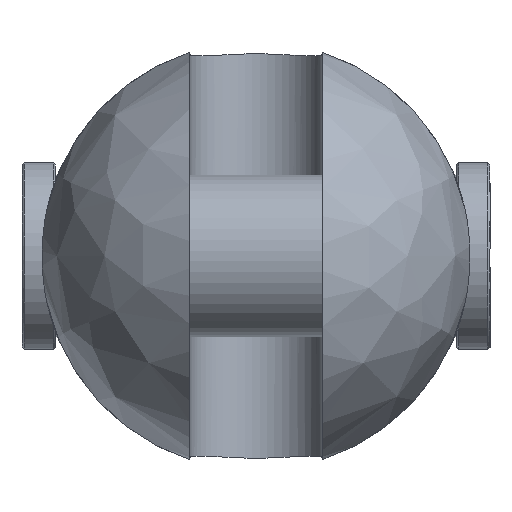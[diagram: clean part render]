
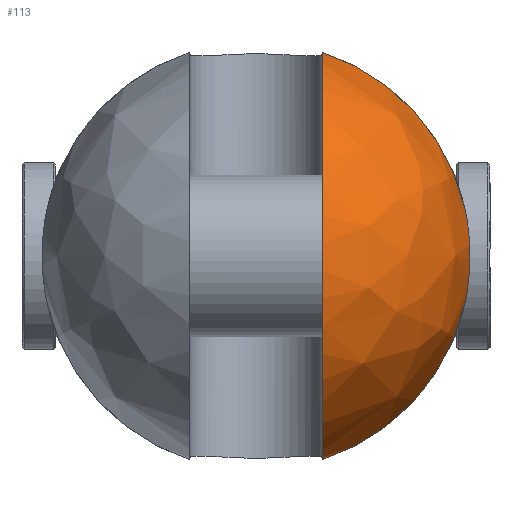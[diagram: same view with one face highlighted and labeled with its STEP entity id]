
A CAD part, left-side view. The second image highlights one B-rep face of the part: STEP entity #113.
In plain terms, the highlighted free-form (B-spline) face has degree [2, 2] with [9, 5] control points.
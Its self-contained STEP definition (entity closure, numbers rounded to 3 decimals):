
#113=ADVANCED_FACE('',(#200),#1527,.T.);
#200=FACE_OUTER_BOUND('',#299,.T.);
#299=EDGE_LOOP('',(#741,#742,#743,#744));
#741=ORIENTED_EDGE('',*,*,#998,.T.);
#742=ORIENTED_EDGE('',*,*,#995,.F.);
#743=ORIENTED_EDGE('',*,*,#1021,.T.);
#744=ORIENTED_EDGE('',*,*,#987,.F.);
#987=EDGE_CURVE('',#1418,#1419,#1249,.T.);
#995=EDGE_CURVE('',#1426,#1427,#1250,.T.);
#998=EDGE_CURVE('',#1418,#1427,#1252,.T.);
#1021=EDGE_CURVE('',#1426,#1419,#1124,.T.);
#1124=B_SPLINE_CURVE_WITH_KNOTS('',3,(#3643,#3644,#3645,#3646,#3647,#3648,
#3649,#3650,#3651,#3652,#3653,#3654,#3655,#3656),.UNSPECIFIED.,.F.,.F.,
(4,2,2,2,2,2,4),(-24.23,-23.407,-17.761,
-12.115,-6.469,-0.823,0.),.UNSPECIFIED.);
#1249=(
BOUNDED_CURVE()
B_SPLINE_CURVE(2,(#3466,#3467,#3468),.UNSPECIFIED.,.F.,.F.)
B_SPLINE_CURVE_WITH_KNOTS((3,3),(0.,53.04),.UNSPECIFIED.)
CURVE()
GEOMETRIC_REPRESENTATION_ITEM()
RATIONAL_B_SPLINE_CURVE((1.,0.87,1.))
REPRESENTATION_ITEM('')
);
#1250=(
BOUNDED_CURVE()
B_SPLINE_CURVE(2,(#3523,#3524,#3525),.UNSPECIFIED.,.F.,.F.)
B_SPLINE_CURVE_WITH_KNOTS((3,3),(0.,53.04),.UNSPECIFIED.)
CURVE()
GEOMETRIC_REPRESENTATION_ITEM()
RATIONAL_B_SPLINE_CURVE((1.,0.87,1.))
REPRESENTATION_ITEM('')
);
#1252=(
BOUNDED_CURVE()
B_SPLINE_CURVE(2,(#3531,#3532,#3533,#3534,#3535),.UNSPECIFIED.,.F.,.F.)
B_SPLINE_CURVE_WITH_KNOTS((3,2,3),(-153.786,-76.893,
0.),.UNSPECIFIED.)
CURVE()
GEOMETRIC_REPRESENTATION_ITEM()
RATIONAL_B_SPLINE_CURVE((1.,0.707,1.,0.707,1.))
REPRESENTATION_ITEM('')
);
#1418=VERTEX_POINT('',#3274);
#1419=VERTEX_POINT('',#3275);
#1426=VERTEX_POINT('',#3282);
#1427=VERTEX_POINT('',#3283);
#1527=(
BOUNDED_SURFACE()
B_SPLINE_SURFACE(2,2,((#3146,#3147,#3148,#3149,#3150),(#3151,#3152,#3153,
#3154,#3155),(#3156,#3157,#3158,#3159,#3160),(#3161,#3162,#3163,#3164,#3165),
(#3166,#3167,#3168,#3169,#3170),(#3171,#3172,#3173,#3174,#3175),(#3176,
#3177,#3178,#3179,#3180),(#3181,#3182,#3183,#3184,#3185),(#3186,#3187,#3188,
#3189,#3190)),.UNSPECIFIED.,.T.,.F.,.F.)
B_SPLINE_SURFACE_WITH_KNOTS((3,2,2,2,3),(3,2,3),(0.,80.896,161.792,
242.688,323.584),(0.,80.896,161.792),
 .UNSPECIFIED.)
GEOMETRIC_REPRESENTATION_ITEM()
RATIONAL_B_SPLINE_SURFACE(((1.,0.707,1.,0.707,1.),
(0.707,0.5,0.707,0.5,0.707),(1.,0.707,
1.,0.707,1.),(0.707,0.5,0.707,0.5,0.707),
(1.,0.707,1.,0.707,1.),(0.707,0.5,0.707,
0.5,0.707),(1.,0.707,1.,0.707,1.),(0.707,
0.5,0.707,0.5,0.707),(1.,0.707,1.,0.707,
1.)))
REPRESENTATION_ITEM('')
SURFACE()
);
#3146=CARTESIAN_POINT('',(-72.,0.,0.));
#3147=CARTESIAN_POINT('',(-72.,51.5,0.));
#3148=CARTESIAN_POINT('',(-20.5,51.5,0.));
#3149=CARTESIAN_POINT('',(31.,51.5,0.));
#3150=CARTESIAN_POINT('',(31.,0.,0.));
#3151=CARTESIAN_POINT('',(-72.,0.,0.));
#3152=CARTESIAN_POINT('',(-72.,51.5,51.5));
#3153=CARTESIAN_POINT('',(-20.5,51.5,51.5));
#3154=CARTESIAN_POINT('',(31.,51.5,51.5));
#3155=CARTESIAN_POINT('',(31.,0.,0.));
#3156=CARTESIAN_POINT('',(-72.,0.,0.));
#3157=CARTESIAN_POINT('',(-72.,0.,51.5));
#3158=CARTESIAN_POINT('',(-20.5,0.,51.5));
#3159=CARTESIAN_POINT('',(31.,0.,51.5));
#3160=CARTESIAN_POINT('',(31.,0.,0.));
#3161=CARTESIAN_POINT('',(-72.,0.,0.));
#3162=CARTESIAN_POINT('',(-72.,-51.5,51.5));
#3163=CARTESIAN_POINT('',(-20.5,-51.5,51.5));
#3164=CARTESIAN_POINT('',(31.,-51.5,51.5));
#3165=CARTESIAN_POINT('',(31.,0.,0.));
#3166=CARTESIAN_POINT('',(-72.,0.,0.));
#3167=CARTESIAN_POINT('',(-72.,-51.5,0.));
#3168=CARTESIAN_POINT('',(-20.5,-51.5,0.));
#3169=CARTESIAN_POINT('',(31.,-51.5,0.));
#3170=CARTESIAN_POINT('',(31.,0.,0.));
#3171=CARTESIAN_POINT('',(-72.,0.,0.));
#3172=CARTESIAN_POINT('',(-72.,-51.5,-51.5));
#3173=CARTESIAN_POINT('',(-20.5,-51.5,-51.5));
#3174=CARTESIAN_POINT('',(31.,-51.5,-51.5));
#3175=CARTESIAN_POINT('',(31.,0.,0.));
#3176=CARTESIAN_POINT('',(-72.,0.,0.));
#3177=CARTESIAN_POINT('',(-72.,0.,-51.5));
#3178=CARTESIAN_POINT('',(-20.5,0.,-51.5));
#3179=CARTESIAN_POINT('',(31.,0.,-51.5));
#3180=CARTESIAN_POINT('',(31.,0.,0.));
#3181=CARTESIAN_POINT('',(-72.,0.,0.));
#3182=CARTESIAN_POINT('',(-72.,51.5,-51.5));
#3183=CARTESIAN_POINT('',(-20.5,51.5,-51.5));
#3184=CARTESIAN_POINT('',(31.,51.5,-51.5));
#3185=CARTESIAN_POINT('',(31.,0.,0.));
#3186=CARTESIAN_POINT('',(-72.,0.,0.));
#3187=CARTESIAN_POINT('',(-72.,51.5,0.));
#3188=CARTESIAN_POINT('',(-20.5,51.5,0.));
#3189=CARTESIAN_POINT('',(31.,51.5,0.));
#3190=CARTESIAN_POINT('',(31.,0.,0.));
#3274=CARTESIAN_POINT('',(-20.5,-16.,48.952));
#3275=CARTESIAN_POINT('',(-20.5,-50.202,11.489));
#3282=CARTESIAN_POINT('',(-20.5,-50.202,-11.489));
#3283=CARTESIAN_POINT('',(-20.5,-16.,-48.952));
#3466=CARTESIAN_POINT('',(-20.5,-16.,48.952));
#3467=CARTESIAN_POINT('',(-20.5,-43.701,39.897));
#3468=CARTESIAN_POINT('',(-20.5,-50.202,11.489));
#3523=CARTESIAN_POINT('',(-20.5,-50.202,-11.489));
#3524=CARTESIAN_POINT('',(-20.5,-43.701,-39.897));
#3525=CARTESIAN_POINT('',(-20.5,-16.,-48.952));
#3531=CARTESIAN_POINT('',(-20.5,-16.,48.952));
#3532=CARTESIAN_POINT('',(-69.452,-16.,48.952));
#3533=CARTESIAN_POINT('',(-69.452,-16.,0.));
#3534=CARTESIAN_POINT('',(-69.452,-16.,-48.952));
#3535=CARTESIAN_POINT('',(-20.5,-16.,-48.952));
#3643=CARTESIAN_POINT('',(-20.5,-50.202,-11.489));
#3644=CARTESIAN_POINT('',(-20.633,-50.256,-11.252));
#3645=CARTESIAN_POINT('',(-20.762,-50.309,-11.012));
#3646=CARTESIAN_POINT('',(-21.743,-50.708,-9.109));
#3647=CARTESIAN_POINT('',(-22.405,-50.975,-7.332));
#3648=CARTESIAN_POINT('',(-23.284,-51.327,-3.69));
#3649=CARTESIAN_POINT('',(-23.5,-51.413,-1.826));
#3650=CARTESIAN_POINT('',(-23.5,-51.413,1.826));
#3651=CARTESIAN_POINT('',(-23.284,-51.327,3.69));
#3652=CARTESIAN_POINT('',(-22.405,-50.975,7.332));
#3653=CARTESIAN_POINT('',(-21.743,-50.708,9.109));
#3654=CARTESIAN_POINT('',(-20.762,-50.309,11.012));
#3655=CARTESIAN_POINT('',(-20.633,-50.256,11.252));
#3656=CARTESIAN_POINT('',(-20.5,-50.202,11.489));
